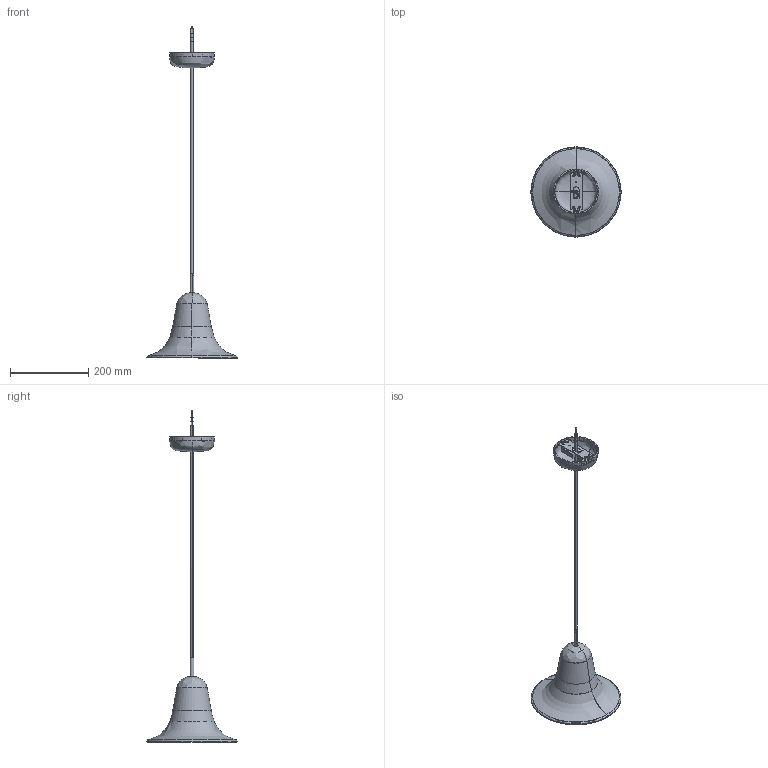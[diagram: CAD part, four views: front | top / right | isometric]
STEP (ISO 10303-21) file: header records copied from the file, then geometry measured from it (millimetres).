
FILE_DESCRIPTION(/* description */ (''),/* implementation_level */ '2;1');
FILE_NAME(/* name */ 'Verpan_Pantop_Pendant_stp',/* time_stamp */ '2025-04-15T12:55:34+02:00',/* author */ (''),/* organization */ (''),/* preprocessor_version */ 'ST-DEVELOPER v19.2',/* originating_system */ 'Rhino 8.13',/* authorisation */ '');
FILE_SCHEMA (('CONFIG_CONTROL_DESIGN'));
Length unit declared in the file: millimetre
Products named in the file (1): Document
Bounding box: 230.6 x 230.6 x 848.7 mm (x, y, z)
Volume: 519503 mm3; surface area: 258174.9 mm2
Topology: 21 solids, 25 shells, 678 faces, 1751 edges, 1136 vertices
Faces by surface type: cylinder 267, bspline 245, plane 166
Entity records: 56446 total; most frequent: CARTESIAN_POINT 42697, ORIENTED_EDGE 3475, EDGE_CURVE 1745, DIRECTION 1412, B_SPLINE_CURVE_WITH_KNOTS 1251, VERTEX_POINT 1136, AXIS2_PLACEMENT_3D 922, EDGE_LOOP 748
